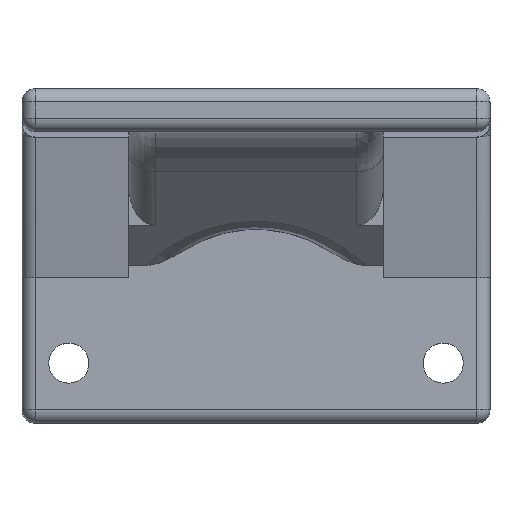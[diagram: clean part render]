
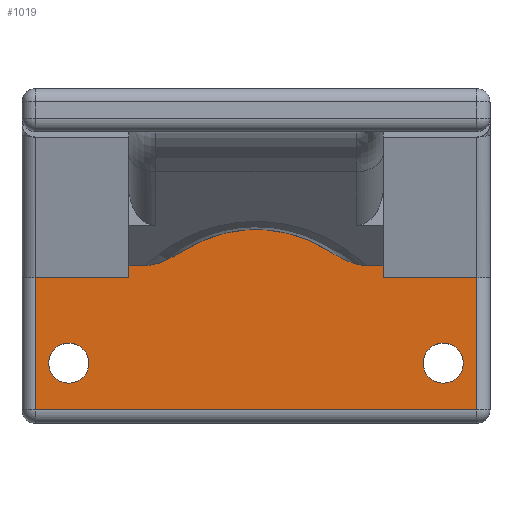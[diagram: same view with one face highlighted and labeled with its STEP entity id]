
A CAD part, top view. The second image highlights one B-rep face of the part: STEP entity #1019.
In plain terms, the highlighted planar face has unit normal (0, 0, 1).
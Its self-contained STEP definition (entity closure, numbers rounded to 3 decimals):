
#21=FACE_BOUND('',#409,.T.);
#22=FACE_BOUND('',#410,.T.);
#41=LINE('',#1598,#123);
#51=LINE('',#1617,#133);
#65=LINE('',#1681,#147);
#90=LINE('',#1794,#172);
#93=LINE('',#1801,#175);
#96=LINE('',#1806,#178);
#105=LINE('',#1820,#187);
#106=LINE('',#1822,#188);
#107=LINE('',#1823,#189);
#123=VECTOR('',#1192,10.);
#133=VECTOR('',#1202,10.);
#147=VECTOR('',#1244,10.);
#172=VECTOR('',#1377,10.);
#175=VECTOR('',#1384,10.);
#178=VECTOR('',#1391,10.);
#187=VECTOR('',#1410,10.);
#188=VECTOR('',#1411,10.);
#189=VECTOR('',#1412,10.);
#211=PLANE('',#1139);
#226=CIRCLE('',#1061,10.);
#267=CIRCLE('',#1140,1.5);
#268=CIRCLE('',#1141,1.5);
#345=FACE_OUTER_BOUND('',#408,.T.);
#408=EDGE_LOOP('',(#847,#848,#849,#850,#851,#852,#853,#854,#855,#856,#857,
#858));
#409=EDGE_LOOP('',(#859));
#410=EDGE_LOOP('',(#860));
#446=B_SPLINE_CURVE_WITH_KNOTS('',3,(#1538,#1539,#1540,#1541,#1542,#1543,
#1544,#1545,#1546,#1547,#1548,#1549,#1550,#1551,#1552,#1553,#1554,#1555,
#1556,#1557,#1558,#1559,#1560,#1561,#1562,#1563,#1564,#1565,#1566,#1567,
#1568,#1569,#1570,#1571,#1572,#1573,#1574,#1575,#1576,#1577,#1578,#1579,
#1580,#1581,#1582,#1583),.UNSPECIFIED.,.F.,.F.,(4,3,3,3,3,3,3,3,3,3,3,3,
3,3,3,4),(0.,0.03,0.059,0.088,0.117,
0.146,0.162,0.164,0.189,
0.214,0.238,0.239,0.259,
0.279,0.299,0.308),.UNSPECIFIED.);
#447=B_SPLINE_CURVE_WITH_KNOTS('',3,(#1587,#1588,#1589,#1590,#1591,#1592),
 .UNSPECIFIED.,.F.,.F.,(4,2,4),(0.,0.093,0.298),
 .UNSPECIFIED.);
#452=VERTEX_POINT('',#1536);
#453=VERTEX_POINT('',#1537);
#454=VERTEX_POINT('',#1584);
#455=VERTEX_POINT('',#1586);
#456=VERTEX_POINT('',#1597);
#465=VERTEX_POINT('',#1615);
#482=VERTEX_POINT('',#1678);
#483=VERTEX_POINT('',#1680);
#501=VERTEX_POINT('',#1732);
#507=VERTEX_POINT('',#1746);
#518=VERTEX_POINT('',#1797);
#520=VERTEX_POINT('',#1821);
#521=VERTEX_POINT('',#1824);
#522=VERTEX_POINT('',#1826);
#538=EDGE_CURVE('',#452,#453,#446,.F.);
#540=EDGE_CURVE('',#454,#455,#447,.F.);
#542=EDGE_CURVE('',#454,#453,#226,.T.);
#543=EDGE_CURVE('',#456,#455,#41,.T.);
#553=EDGE_CURVE('',#452,#465,#51,.T.);
#576=EDGE_CURVE('',#483,#482,#65,.T.);
#633=EDGE_CURVE('',#501,#507,#90,.T.);
#637=EDGE_CURVE('',#507,#518,#93,.T.);
#640=EDGE_CURVE('',#483,#501,#96,.T.);
#649=EDGE_CURVE('',#482,#456,#105,.T.);
#650=EDGE_CURVE('',#465,#520,#106,.T.);
#651=EDGE_CURVE('',#520,#518,#107,.T.);
#652=EDGE_CURVE('',#521,#521,#267,.T.);
#653=EDGE_CURVE('',#522,#522,#268,.T.);
#847=ORIENTED_EDGE('',*,*,#637,.F.);
#848=ORIENTED_EDGE('',*,*,#633,.F.);
#849=ORIENTED_EDGE('',*,*,#640,.F.);
#850=ORIENTED_EDGE('',*,*,#576,.T.);
#851=ORIENTED_EDGE('',*,*,#649,.T.);
#852=ORIENTED_EDGE('',*,*,#543,.T.);
#853=ORIENTED_EDGE('',*,*,#540,.F.);
#854=ORIENTED_EDGE('',*,*,#542,.T.);
#855=ORIENTED_EDGE('',*,*,#538,.F.);
#856=ORIENTED_EDGE('',*,*,#553,.T.);
#857=ORIENTED_EDGE('',*,*,#650,.T.);
#858=ORIENTED_EDGE('',*,*,#651,.T.);
#859=ORIENTED_EDGE('',*,*,#652,.T.);
#860=ORIENTED_EDGE('',*,*,#653,.T.);
#1019=ADVANCED_FACE('',(#345,#21,#22),#211,.T.);
#1061=AXIS2_PLACEMENT_3D('',#1595,#1188,#1189);
#1139=AXIS2_PLACEMENT_3D('',#1819,#1408,#1409);
#1140=AXIS2_PLACEMENT_3D('',#1825,#1413,#1414);
#1141=AXIS2_PLACEMENT_3D('',#1827,#1415,#1416);
#1188=DIRECTION('center_axis',(0.,0.,1.));
#1189=DIRECTION('ref_axis',(1.,0.,0.));
#1192=DIRECTION('',(-1.,0.,0.));
#1202=DIRECTION('',(-1.,0.,0.));
#1244=DIRECTION('',(-1.,0.,0.));
#1377=DIRECTION('',(-1.,0.,0.));
#1384=DIRECTION('',(0.,1.,0.));
#1391=DIRECTION('',(0.,-1.,0.));
#1408=DIRECTION('center_axis',(0.,0.,1.));
#1409=DIRECTION('ref_axis',(1.,0.,0.));
#1410=DIRECTION('',(0.,1.,0.));
#1411=DIRECTION('',(0.,-1.,0.));
#1412=DIRECTION('',(-1.,0.,0.));
#1413=DIRECTION('center_axis',(0.,0.,-1.));
#1414=DIRECTION('ref_axis',(1.,0.,0.));
#1415=DIRECTION('center_axis',(0.,0.,-1.));
#1416=DIRECTION('ref_axis',(1.,0.,0.));
#1536=CARTESIAN_POINT('',(-8.25,0.9,3.2));
#1537=CARTESIAN_POINT('',(-5.363,2.04,3.2));
#1538=CARTESIAN_POINT('Ctrl Pts',(-5.361,2.037,3.196));
#1539=CARTESIAN_POINT('Ctrl Pts',(-5.445,1.984,3.197));
#1540=CARTESIAN_POINT('Ctrl Pts',(-5.531,1.931,3.197));
#1541=CARTESIAN_POINT('Ctrl Pts',(-5.617,1.878,3.197));
#1542=CARTESIAN_POINT('Ctrl Pts',(-5.703,1.826,3.197));
#1543=CARTESIAN_POINT('Ctrl Pts',(-5.789,1.775,3.197));
#1544=CARTESIAN_POINT('Ctrl Pts',(-5.877,1.725,3.197));
#1545=CARTESIAN_POINT('Ctrl Pts',(-5.963,1.675,3.198));
#1546=CARTESIAN_POINT('Ctrl Pts',(-6.05,1.626,3.198));
#1547=CARTESIAN_POINT('Ctrl Pts',(-6.138,1.578,3.198));
#1548=CARTESIAN_POINT('Ctrl Pts',(-6.226,1.53,3.198));
#1549=CARTESIAN_POINT('Ctrl Pts',(-6.314,1.484,3.198));
#1550=CARTESIAN_POINT('Ctrl Pts',(-6.402,1.44,3.198));
#1551=CARTESIAN_POINT('Ctrl Pts',(-6.49,1.396,3.199));
#1552=CARTESIAN_POINT('Ctrl Pts',(-6.579,1.353,3.199));
#1553=CARTESIAN_POINT('Ctrl Pts',(-6.667,1.313,3.199));
#1554=CARTESIAN_POINT('Ctrl Pts',(-6.718,1.29,3.199));
#1555=CARTESIAN_POINT('Ctrl Pts',(-6.768,1.267,3.199));
#1556=CARTESIAN_POINT('Ctrl Pts',(-6.818,1.246,3.199));
#1557=CARTESIAN_POINT('Ctrl Pts',(-6.825,1.243,3.199));
#1558=CARTESIAN_POINT('Ctrl Pts',(-6.831,1.241,3.199));
#1559=CARTESIAN_POINT('Ctrl Pts',(-6.837,1.238,3.199));
#1560=CARTESIAN_POINT('Ctrl Pts',(-6.914,1.205,3.199));
#1561=CARTESIAN_POINT('Ctrl Pts',(-6.992,1.174,3.199));
#1562=CARTESIAN_POINT('Ctrl Pts',(-7.071,1.145,3.199));
#1563=CARTESIAN_POINT('Ctrl Pts',(-7.151,1.115,3.199));
#1564=CARTESIAN_POINT('Ctrl Pts',(-7.232,1.087,3.199));
#1565=CARTESIAN_POINT('Ctrl Pts',(-7.313,1.062,3.199));
#1566=CARTESIAN_POINT('Ctrl Pts',(-7.39,1.038,3.199));
#1567=CARTESIAN_POINT('Ctrl Pts',(-7.467,1.016,3.199));
#1568=CARTESIAN_POINT('Ctrl Pts',(-7.544,0.996,3.2));
#1569=CARTESIAN_POINT('Ctrl Pts',(-7.549,0.995,3.2));
#1570=CARTESIAN_POINT('Ctrl Pts',(-7.553,0.994,3.2));
#1571=CARTESIAN_POINT('Ctrl Pts',(-7.558,0.993,3.2));
#1572=CARTESIAN_POINT('Ctrl Pts',(-7.625,0.976,3.2));
#1573=CARTESIAN_POINT('Ctrl Pts',(-7.692,0.961,3.2));
#1574=CARTESIAN_POINT('Ctrl Pts',(-7.76,0.949,3.2));
#1575=CARTESIAN_POINT('Ctrl Pts',(-7.827,0.936,3.2));
#1576=CARTESIAN_POINT('Ctrl Pts',(-7.894,0.926,3.2));
#1577=CARTESIAN_POINT('Ctrl Pts',(-7.962,0.918,3.2));
#1578=CARTESIAN_POINT('Ctrl Pts',(-8.027,0.91,3.2));
#1579=CARTESIAN_POINT('Ctrl Pts',(-8.093,0.904,3.2));
#1580=CARTESIAN_POINT('Ctrl Pts',(-8.159,0.902,3.2));
#1581=CARTESIAN_POINT('Ctrl Pts',(-8.189,0.901,3.2));
#1582=CARTESIAN_POINT('Ctrl Pts',(-8.22,0.9,3.2));
#1583=CARTESIAN_POINT('Ctrl Pts',(-8.25,0.9,3.2));
#1584=CARTESIAN_POINT('',(5.363,2.04,3.2));
#1586=CARTESIAN_POINT('',(8.25,0.9,3.2));
#1587=CARTESIAN_POINT('Ctrl Pts',(8.25,0.9,3.2));
#1588=CARTESIAN_POINT('Ctrl Pts',(7.941,0.9,3.2));
#1589=CARTESIAN_POINT('Ctrl Pts',(7.625,0.965,3.2));
#1590=CARTESIAN_POINT('Ctrl Pts',(6.673,1.261,3.2));
#1591=CARTESIAN_POINT('Ctrl Pts',(5.996,1.638,3.2));
#1592=CARTESIAN_POINT('Ctrl Pts',(5.363,2.04,3.2));
#1595=CARTESIAN_POINT('Origin',(0.,-6.4,3.2));
#1597=CARTESIAN_POINT('',(9.5,0.9,3.2));
#1598=CARTESIAN_POINT('',(-9.5,0.9,3.2));
#1615=CARTESIAN_POINT('',(-9.5,0.9,3.2));
#1617=CARTESIAN_POINT('',(-9.5,0.9,3.2));
#1678=CARTESIAN_POINT('',(9.5,0.,3.2));
#1680=CARTESIAN_POINT('',(16.5,0.,3.2));
#1681=CARTESIAN_POINT('',(9.5,0.,3.2));
#1732=CARTESIAN_POINT('',(16.5,-9.9,3.2));
#1746=CARTESIAN_POINT('',(-16.5,-9.9,3.2));
#1794=CARTESIAN_POINT('',(-8.75,-9.9,3.2));
#1797=CARTESIAN_POINT('',(-16.5,0.,3.2));
#1801=CARTESIAN_POINT('',(-16.5,-2.5,3.2));
#1806=CARTESIAN_POINT('',(16.5,-7.95,3.2));
#1819=CARTESIAN_POINT('Origin',(0.,-5.,3.2));
#1820=CARTESIAN_POINT('',(9.5,10.9,3.2));
#1821=CARTESIAN_POINT('',(-9.5,0.,3.2));
#1822=CARTESIAN_POINT('',(-9.5,10.9,3.2));
#1823=CARTESIAN_POINT('',(-17.5,0.,3.2));
#1824=CARTESIAN_POINT('',(12.5,-6.4,3.2));
#1825=CARTESIAN_POINT('Origin',(14.,-6.4,3.2));
#1826=CARTESIAN_POINT('',(-15.5,-6.4,3.2));
#1827=CARTESIAN_POINT('Origin',(-14.,-6.4,3.2));
